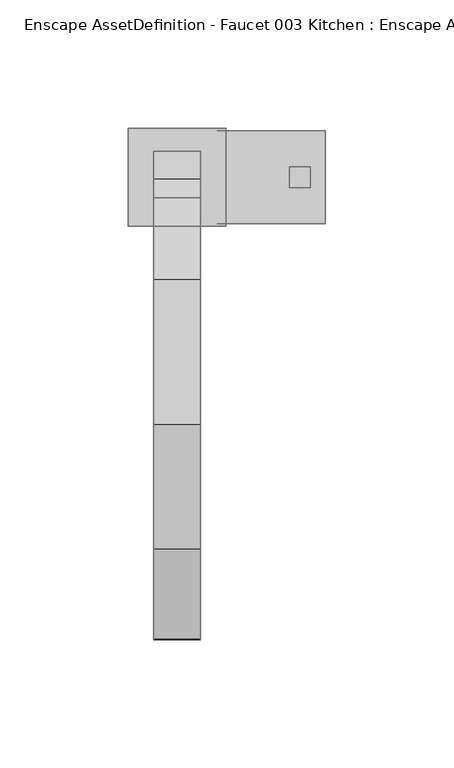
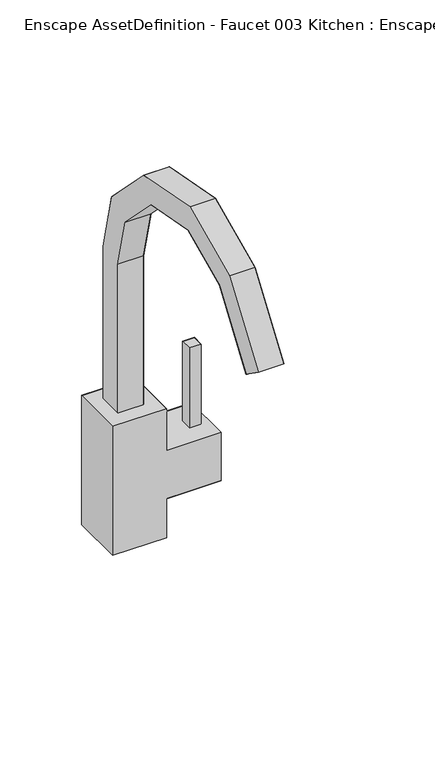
"""IFC4 building model written with IfcOpenShell, lengths in millimetres: geographic element geometry, Enscape AssetDefinition - Faucet 003 Kitchen : Enscape AssetDefinition - Faucet 003 Kitchen."""

from ifc_helpers import new_model, si_unit, origin, place, context, project, spatial, triangles, source, transform, mapped, element, save


def enscape_assetdefinition_faucet_003_kitchen_enscape_26e6365f(model_context):
    return source(origin(), model_context, "Body", "Tessellation", [
        triangles([(-19.0370012, 19.0370012, 96.3609969), (19.0370012, -19.0370012, 96.3609969), (19.0370012, 19.0370012, 96.3609969), (19.0370012, 19.0370012, 0.0), (-19.0370012, 19.0370012, 0.0), (-19.0370012, -19.0370012, 96.3609969), (-19.0370012, -19.0370012, 0.0), (19.0370012, -19.0370012, 0.0), (57.9740004, 18.1370005, 64.4000026), (15.5370002, -18.1370005, 64.4000026), (15.5370002, 18.1370005, 64.4000026), (57.9740004, -18.1370005, 64.4000026), (57.9740004, 18.1370005, 28.1300008), (57.9740004, -18.1370005, 28.1300008), (15.5370002, -18.1370005, 28.1300008), (15.5370002, 18.1370005, 28.1300008), (43.8000018, 4.1059999, 123.916001), (43.8000018, -4.1059999, 123.916001), (52.0110014, 4.1059999, 123.916001), (52.0110014, 4.1059999, 63.6999999), (43.8000018, 4.1059999, 63.6999999), (52.0110014, -4.1059999, 123.916001), (43.8000018, -4.1059999, 63.6999999), (52.0110014, -4.1059999, 63.6999999), (-9.0899998, -180.1469982, 230.9429893), (9.0899998, -144.6799952, 281.6280132), (-9.0899998, -93.9859965, 284.7650129), (-9.0899998, -144.6799952, 281.6280132), (-9.0899998, -132.625998, 267.1439954), (9.0899998, -180.1469982, 230.9429893), (9.0899998, -165.2519953, 220.5200063), (-9.0899998, -165.2519953, 220.5200063), (-9.0899998, -96.2909975, 303.6949984), (-9.0899998, -48.7899997, 276.2829906), (9.0899998, -93.9859965, 284.7650129), (9.0899998, -96.2909975, 303.6949984), (9.0899998, -132.625998, 267.1439954), (-9.0899998, -39.8189994, 293.0969898), (9.0899998, -48.7899997, 276.2829906), (9.0899998, -39.8189994, 293.0969898), (-9.0899998, -17.1160008, 244.0089977), (9.0899998, 10.1839998, 209.5030007), (9.0899998, -17.1160008, 244.0089977), (-9.0899998, -0.667, 253.2039851), (9.0899998, -0.667, 253.2039851), (-9.0899998, 10.1839998, 94.6020018), (-9.0899998, -7.9960003, 207.2799896), (9.0899998, -7.9960003, 207.2799896), (9.0899998, -7.9960003, 94.6020018), (9.0899998, 10.1839998, 94.6020018), (-9.0899998, -7.9960003, 94.6020018), (-9.0899998, 10.1839998, 209.5030007)], [[52, 46, 51], [47, 51, 49], [51, 47, 52], [48, 49, 50], [49, 48, 47], [50, 42, 48], [42, 50, 46], [46, 52, 42], [45, 42, 52], [44, 52, 47], [52, 44, 45], [41, 47, 48], [47, 41, 44], [43, 48, 42], [42, 45, 43], [48, 43, 41], [39, 43, 45], [45, 40, 39], [40, 45, 44], [38, 44, 41], [44, 38, 40], [34, 41, 43], [43, 39, 34], [41, 34, 38], [27, 34, 39], [35, 39, 40], [39, 35, 27], [29, 27, 35], [35, 37, 29], [32, 29, 37], [37, 31, 32], [40, 36, 35], [36, 40, 38], [37, 35, 36], [33, 38, 34], [34, 27, 33], [38, 33, 36], [36, 26, 37], [26, 36, 33], [31, 37, 26], [32, 31, 30], [26, 30, 31], [30, 25, 32], [29, 32, 25], [28, 33, 27], [27, 29, 28], [33, 28, 26], [25, 28, 29], [30, 26, 28], [28, 25, 30], [23, 24, 22], [21, 23, 18], [22, 18, 23], [18, 17, 21], [20, 21, 17], [17, 19, 20], [24, 20, 19], [19, 22, 24], [18, 22, 19], [19, 17, 18], [16, 11, 9], [9, 13, 16], [15, 16, 13], [13, 14, 15], [10, 15, 14], [12, 9, 11], [11, 10, 12], [14, 12, 10], [13, 9, 12], [12, 14, 13], [7, 8, 2], [5, 7, 6], [2, 6, 7], [6, 1, 5], [4, 5, 1], [1, 3, 4], [8, 4, 3], [3, 2, 8], [6, 2, 3], [3, 1, 6]], closed=False),
    ])


if __name__ == "__main__":
    model = new_model("IFC4")
    model_context = context("Model", 3, world=origin())
    ifc_project = project(units=[si_unit("LENGTHUNIT", "METRE", prefix="MILLI")], contexts=[model_context])
    site = spatial("IfcSite", under=ifc_project)
    building = spatial("IfcBuilding", under=site)
    placement = place(None, origin())
    enscape_assetdefinition_faucet_003_kitchen_enscape_shape = enscape_assetdefinition_faucet_003_kitchen_enscape_26e6365f(model_context)
    element("IfcGeographicElement", 1, ObjectType="Enscape AssetDefinition - Faucet 003 Kitchen : Enscape AssetDefinition - Faucet 003 Kitchen", at=placement, inside=building, context=model_context, shape_type="MappedRepresentation", body=[
        mapped(enscape_assetdefinition_faucet_003_kitchen_enscape_shape, transform((0.0, 0.0, 0.0), x_axis=(1.0, 0.0, 0.0), y_axis=(0.0, 1.0, 0.0), z_axis=(0.0, 0.0, 1.0))),
    ])
    save(model, "model.ifc")
